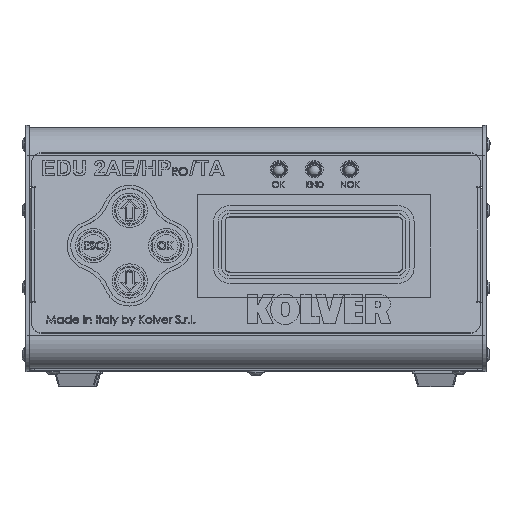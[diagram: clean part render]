
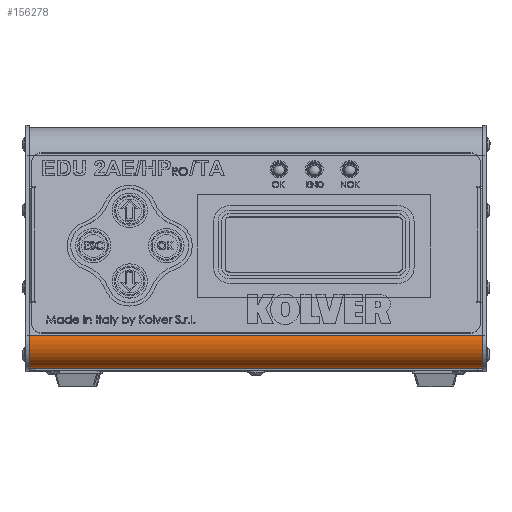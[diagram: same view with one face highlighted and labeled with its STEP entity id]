
A CAD part, top view. The second image highlights one B-rep face of the part: STEP entity #156278.
In plain terms, the highlighted cylindrical face has radius 11 mm (diameter 22 mm), a partial arc.
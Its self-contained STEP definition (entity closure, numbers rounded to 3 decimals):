
#3054 = VERTEX_POINT ( 'NONE', #113832 ) ;
#3875 = DIRECTION ( 'NONE',  ( 0., 0.966, -0.259 ) ) ;
#5743 = EDGE_CURVE ( 'NONE', #3054, #102601, #7759, .T. ) ;
#7283 = ORIENTED_EDGE ( 'NONE', *, *, #5743, .T. ) ;
#7542 = DIRECTION ( 'NONE',  ( 1., 0., 0. ) ) ;
#7759 = CIRCLE ( 'NONE', #177727, 11. ) ;
#21658 = CIRCLE ( 'NONE', #160045, 11. ) ;
#30183 = DIRECTION ( 'NONE',  ( -1., 0., 0. ) ) ;
#34455 = DIRECTION ( 'NONE',  ( 1., 0., 0. ) ) ;
#36173 = DIRECTION ( 'NONE',  ( 0., 0.966, -0.259 ) ) ;
#44225 = DIRECTION ( 'NONE',  ( -1., 0., 0. ) ) ;
#44850 = DIRECTION ( 'NONE',  ( -1., 0., 0. ) ) ;
#52857 = CARTESIAN_POINT ( 'NONE',  ( -96., 12., 80.276 ) ) ;
#55045 = AXIS2_PLACEMENT_3D ( 'NONE', #170362, #34455, #3875 ) ;
#57066 = LINE ( 'NONE', #119136, #81127 ) ;
#59758 = CARTESIAN_POINT ( 'NONE',  ( 96., 1., 80.276 ) ) ;
#62429 = ORIENTED_EDGE ( 'NONE', *, *, #78085, .F. ) ;
#67758 = CARTESIAN_POINT ( 'NONE',  ( -96., 1., 80.276 ) ) ;
#69590 = VERTEX_POINT ( 'NONE', #87539 ) ;
#77451 = ORIENTED_EDGE ( 'NONE', *, *, #102856, .T. ) ;
#78085 = EDGE_CURVE ( 'NONE', #3054, #87065, #194590, .T. ) ;
#81127 = VECTOR ( 'NONE', #44225, 1000. ) ;
#87065 = VERTEX_POINT ( 'NONE', #67758 ) ;
#87539 = CARTESIAN_POINT ( 'NONE',  ( -96., 14.847, 90.902 ) ) ;
#88315 = DIRECTION ( 'NONE',  ( 0., -0.966, 0.259 ) ) ;
#88850 = VECTOR ( 'NONE', #30183, 1000. ) ;
#102601 = VERTEX_POINT ( 'NONE', #143332 ) ;
#102856 = EDGE_CURVE ( 'NONE', #102601, #69590, #57066, .T. ) ;
#113832 = CARTESIAN_POINT ( 'NONE',  ( 96., 1., 80.276 ) ) ;
#119136 = CARTESIAN_POINT ( 'NONE',  ( 96., 14.847, 90.902 ) ) ;
#122231 = CYLINDRICAL_SURFACE ( 'NONE', #55045, 11. ) ;
#131382 = EDGE_CURVE ( 'NONE', #69590, #87065, #21658, .T. ) ;
#139238 = EDGE_LOOP ( 'NONE', ( #169318, #62429, #7283, #77451 ) ) ;
#143332 = CARTESIAN_POINT ( 'NONE',  ( 96., 14.847, 90.902 ) ) ;
#148856 = FACE_OUTER_BOUND ( 'NONE', #139238, .T. ) ;
#156278 = ADVANCED_FACE ( 'NONE', ( #148856 ), #122231, .T. ) ;
#160045 = AXIS2_PLACEMENT_3D ( 'NONE', #52857, #7542, #36173 ) ;
#169318 = ORIENTED_EDGE ( 'NONE', *, *, #131382, .T. ) ;
#170362 = CARTESIAN_POINT ( 'NONE',  ( -192.928, 12., 80.276 ) ) ;
#177727 = AXIS2_PLACEMENT_3D ( 'NONE', #179707, #44850, #88315 ) ;
#179707 = CARTESIAN_POINT ( 'NONE',  ( 96., 12., 80.276 ) ) ;
#194590 = LINE ( 'NONE', #59758, #88850 ) ;
